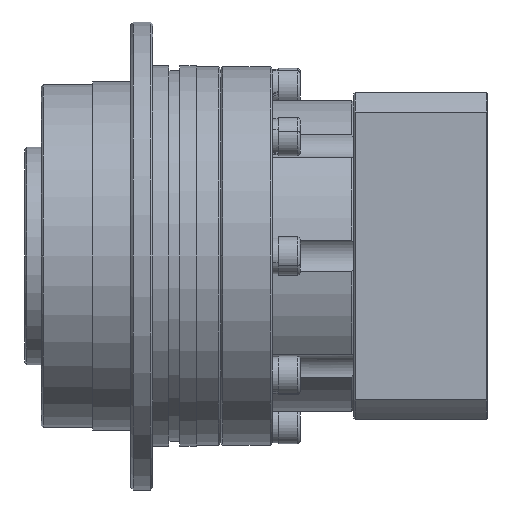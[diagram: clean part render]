
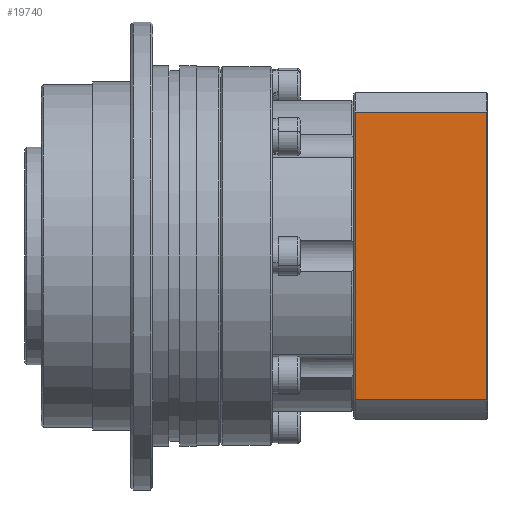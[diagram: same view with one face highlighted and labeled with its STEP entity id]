
A CAD part, front view. The second image highlights one B-rep face of the part: STEP entity #19740.
In plain terms, the highlighted planar face has unit normal (0, -1, 0).
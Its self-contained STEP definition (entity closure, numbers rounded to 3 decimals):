
#126 = DIRECTION ( 'NONE',  ( 0., 0., -1. ) ) ;
#1422 = CARTESIAN_POINT ( 'NONE',  ( 0., -30., 26.458 ) ) ;
#1583 = ORIENTED_EDGE ( 'NONE', *, *, #16070, .F. ) ;
#2174 = LINE ( 'NONE', #23901, #3556 ) ;
#3556 = VECTOR ( 'NONE', #126, 1000. ) ;
#3798 = DIRECTION ( 'NONE',  ( 1., 0., 0. ) ) ;
#4285 = EDGE_CURVE ( 'NONE', #15706, #14453, #10942, .T. ) ;
#4742 = VERTEX_POINT ( 'NONE', #7151 ) ;
#4944 = DIRECTION ( 'NONE',  ( 0., 0., 1. ) ) ;
#6096 = AXIS2_PLACEMENT_3D ( 'NONE', #17968, #18057, #4944 ) ;
#7151 = CARTESIAN_POINT ( 'NONE',  ( 0.2, -30., -26.458 ) ) ;
#7513 = FACE_OUTER_BOUND ( 'NONE', #25963, .T. ) ;
#7737 = CARTESIAN_POINT ( 'NONE',  ( 24.3, -30., -26.458 ) ) ;
#8112 = CARTESIAN_POINT ( 'NONE',  ( 24.3, -30., -26.458 ) ) ;
#9253 = PLANE ( 'NONE',  #6096 ) ;
#10790 = ORIENTED_EDGE ( 'NONE', *, *, #14544, .F. ) ;
#10942 = LINE ( 'NONE', #1422, #22113 ) ;
#12254 = CARTESIAN_POINT ( 'NONE',  ( -15.904, -30., -26.458 ) ) ;
#12667 = VECTOR ( 'NONE', #18826, 1000. ) ;
#12996 = VERTEX_POINT ( 'NONE', #8112 ) ;
#14209 = EDGE_CURVE ( 'NONE', #15706, #4742, #2174, .T. ) ;
#14453 = VERTEX_POINT ( 'NONE', #20611 ) ;
#14544 = EDGE_CURVE ( 'NONE', #14453, #12996, #24151, .T. ) ;
#14576 = ORIENTED_EDGE ( 'NONE', *, *, #14209, .T. ) ;
#15706 = VERTEX_POINT ( 'NONE', #27587 ) ;
#16070 = EDGE_CURVE ( 'NONE', #12996, #4742, #20259, .T. ) ;
#16900 = VECTOR ( 'NONE', #23032, 1000. ) ;
#17968 = CARTESIAN_POINT ( 'NONE',  ( 0., -30., -26.458 ) ) ;
#18057 = DIRECTION ( 'NONE',  ( 0., 1., 0. ) ) ;
#18826 = DIRECTION ( 'NONE',  ( 0., 0., -1. ) ) ;
#19304 = ORIENTED_EDGE ( 'NONE', *, *, #4285, .F. ) ;
#19740 = ADVANCED_FACE ( 'NONE', ( #7513 ), #9253, .F. ) ;
#20259 = LINE ( 'NONE', #12254, #16900 ) ;
#20611 = CARTESIAN_POINT ( 'NONE',  ( 24.3, -30., 26.458 ) ) ;
#22113 = VECTOR ( 'NONE', #3798, 1000. ) ;
#23032 = DIRECTION ( 'NONE',  ( -1., 0., 0. ) ) ;
#23901 = CARTESIAN_POINT ( 'NONE',  ( 0.2, -30., 0. ) ) ;
#24151 = LINE ( 'NONE', #7737, #12667 ) ;
#25963 = EDGE_LOOP ( 'NONE', ( #10790, #19304, #14576, #1583 ) ) ;
#27587 = CARTESIAN_POINT ( 'NONE',  ( 0.2, -30., 26.458 ) ) ;
